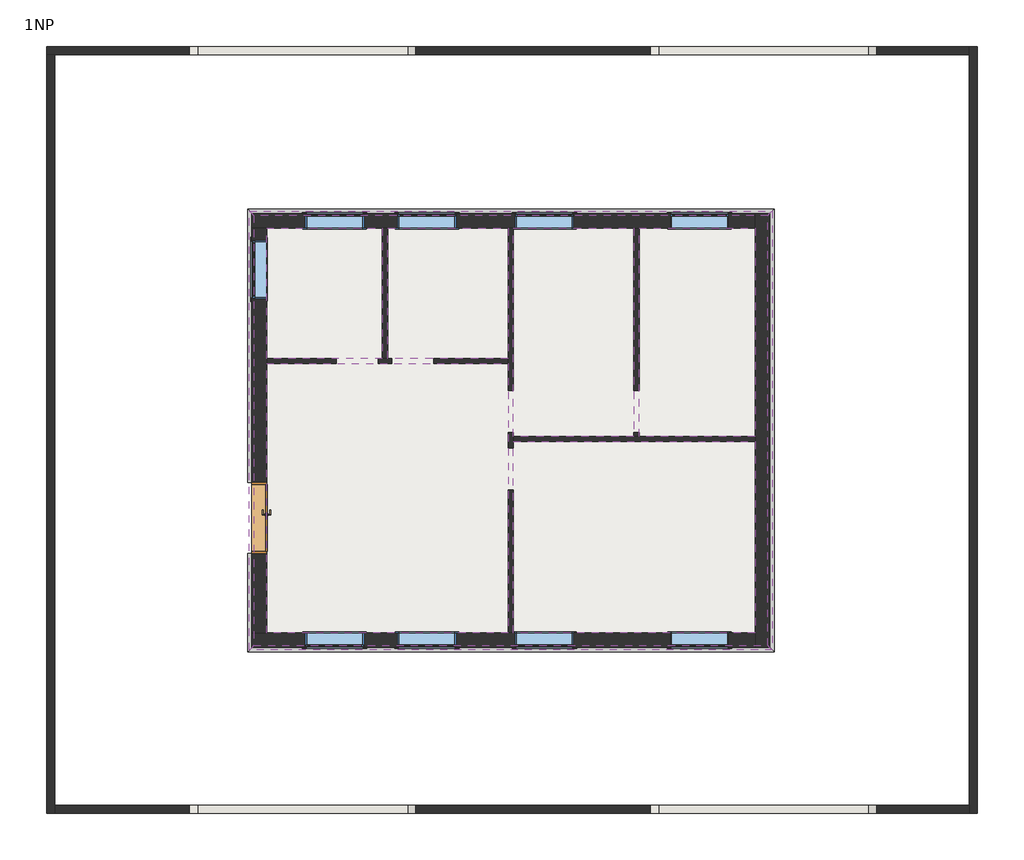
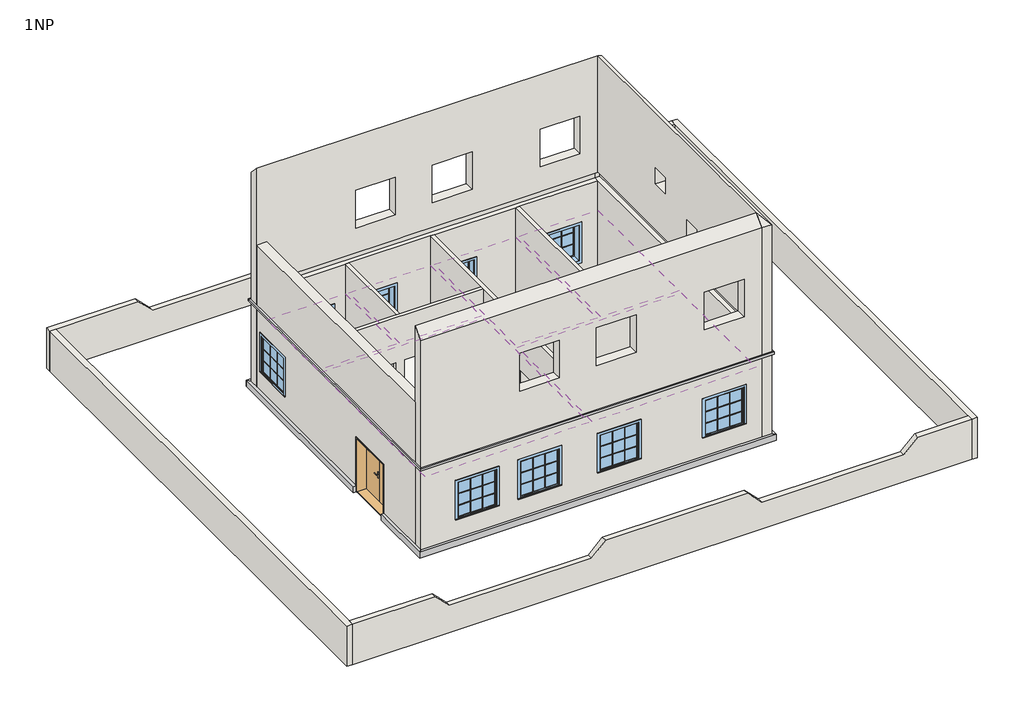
# One storey, incomplete: 13 walls, 9 windows, 8 proxies, 6 coverings, 1 door, 1 slab.
"""IFC4 building model written with IfcOpenShell, lengths in millimetres."""

from ifc_helpers import new_model, si_unit, frame, origin, origin_with_axes, place, context, project, spatial, polyline, outline, extrude, faceted_brep, transform, mapped, element, save
from components import door_1800_x_2000_69ae4523, m_casement_3x3_with_trim_1100_x_1400_df31fcd5

model = new_model("IFC4")

# Units and contexts
model_context = context("Model", 3, world=origin())
ifc_project = project(units=[si_unit("LENGTHUNIT", "METRE", prefix="MILLI")], contexts=[model_context])

# Site, building, storey
site = spatial("IfcSite", under=ifc_project)
building = spatial("IfcBuilding", under=site)
storey = spatial("IfcBuildingStorey", under=building, Name="1NP", Elevation=0.0)

# Proxies
placement = place(None, origin())
element("IfcBuildingElementProxy", 1, Name="Reveals", at=placement, inside=storey, context=model_context, shape_type="SweptSolid", body=[
    extrude(outline(polyline([(41581.5997597, 8705.2898989), (41684.0997597, 8602.7898989), (29219.0997597, 8602.7898989), (29321.5997597, 8705.2898989), (41581.5997597, 8705.2898989)])), frame((0.0, 0.0, 3200.0), z_axis=(0.0, 0.0, 1.0), x_axis=(1.0, 0.0, 0.0)), (0.0, 0.0, 1.0), 75.0),
])
element("IfcBuildingElementProxy", 2, Name="Wall Sweeps", at=placement, inside=storey, context=model_context, shape_type="Brep", body=[
    faceted_brep([(41729.0997597, 8557.7898989, 225.0), (41729.0997597, 8557.7898989, 0.0), (41626.5997597, 8660.2898989, 0.0), (41626.5997597, 8660.2898989, 225.0), (29174.0997597, 8557.7898989, 225.0), (29276.5997597, 8660.2898989, 225.0), (29276.5997597, 8660.2898989, 0.0), (29174.0997597, 8557.7898989, 0.0), (41276.5997597, 8660.2898989, 0.0)], [[[0, 1, 2, 3]], [[4, 5, 6, 7]], [[1, 0, 4, 7]], [[2, 1, 7, 6, 8]], [[3, 2, 8, 6, 5]], [[0, 3, 5, 4]]]),
])
element("IfcBuildingElementProxy", 3, Name="Reveals", at=placement, inside=storey, context=model_context, shape_type="SweptSolid", body=[
    extrude(outline(polyline([(29321.5997597, 18965.2898989), (29219.0997597, 19067.7898989), (41684.0997597, 19067.7898989), (41581.5997597, 18965.2898989), (29321.5997597, 18965.2898989)])), frame((0.0, 0.0, 3200.0), z_axis=(0.0, 0.0, 1.0), x_axis=(1.0, 0.0, 0.0)), (0.0, 0.0, 1.0), 75.0),
])
element("IfcBuildingElementProxy", 4, Name="Wall Sweeps", at=placement, inside=storey, context=model_context, shape_type="Brep", body=[
    faceted_brep([(29174.0997597, 19112.7898989, 225.0), (29174.0997597, 19112.7898989, 0.0), (29276.5997597, 19010.2898989, 0.0), (29276.5997597, 19010.2898989, 225.0), (41729.0997597, 19112.7898989, 225.0), (41626.5997597, 19010.2898989, 225.0), (41626.5997597, 19010.2898989, 0.0), (41729.0997597, 19112.7898989, 0.0), (41276.5997597, 19010.2898989, 0.0)], [[[0, 1, 2, 3]], [[4, 5, 6, 7]], [[1, 0, 4, 7]], [[2, 1, 7, 6, 8]], [[3, 2, 8, 6, 5]], [[0, 3, 5, 4]]]),
])
element("IfcBuildingElementProxy", 5, Name="Reveals", at=placement, inside=storey, context=model_context, shape_type="SweptSolid", body=[
    extrude(outline(polyline([(29321.5997597, 8705.2898989), (29219.0997597, 8602.7898989), (29219.0997597, 19067.7898989), (29321.5997597, 18965.2898989), (29321.5997597, 8705.2898989)])), frame((0.0, 0.0, 3200.0), z_axis=(0.0, 0.0, 1.0), x_axis=(1.0, 0.0, 0.0)), (0.0, 0.0, 1.0), 75.0),
])
element("IfcBuildingElementProxy", 6, Name="Wall Sweeps", at=placement, inside=storey, context=model_context, shape_type="Brep", body=[
    faceted_brep([(29174.0997597, 8557.7898989, 225.0), (29174.0997597, 8557.7898989, 0.0), (29276.5997597, 8660.2898989, 0.0), (29276.5997597, 8660.2898989, 225.0), (29174.0997597, 10900.2898989, 225.0), (29276.5997597, 10900.2898989, 225.0), (29276.5997597, 10900.2898989, 0.0), (29174.0997597, 10900.2898989, 0.0), (29276.5997597, 9010.2898989, 0.0)], [[[0, 1, 2, 3]], [[4, 5, 6, 7]], [[1, 0, 4, 7]], [[2, 1, 7, 6, 8]], [[3, 2, 8, 6, 5]], [[0, 3, 5, 4]]]),
    faceted_brep([(29174.0997597, 12600.2898989, 225.0), (29174.0997597, 12600.2898989, 0.0), (29276.5997597, 12600.2898989, 0.0), (29276.5997597, 12600.2898989, 225.0), (29174.0997597, 19112.7898989, 225.0), (29276.5997597, 19010.2898989, 225.0), (29276.5997597, 19010.2898989, 0.0), (29174.0997597, 19112.7898989, 0.0), (29276.5997597, 18660.2898989, 0.0)], [[[0, 1, 2, 3]], [[4, 5, 6, 7]], [[1, 0, 4, 7]], [[2, 1, 7, 6, 8]], [[3, 2, 8, 6, 5]], [[0, 3, 5, 4]]]),
])
element("IfcBuildingElementProxy", 7, Name="Reveals", at=placement, inside=storey, context=model_context, shape_type="SweptSolid", body=[
    extrude(outline(polyline([(41581.5997597, 18965.2898989), (41684.0997597, 19067.7898989), (41684.0997597, 8602.7898989), (41581.5997597, 8705.2898989), (41581.5997597, 18965.2898989)])), frame((0.0, 0.0, 3200.0), z_axis=(0.0, 0.0, 1.0), x_axis=(1.0, 0.0, 0.0)), (0.0, 0.0, 1.0), 75.0),
])
element("IfcBuildingElementProxy", 8, Name="Wall Sweeps", at=placement, inside=storey, context=model_context, shape_type="SweptSolid", body=[
    extrude(outline(polyline([(41626.5997597, 19010.2898989), (41729.0997597, 19112.7898989), (41729.0997597, 8557.7898989), (41626.5997597, 8660.2898989), (41626.5997597, 19010.2898989)])), origin_with_axes(), (0.0, 0.0, 1.0), 225.0),
])

# Coverings
element("IfcCovering", 9, ObjectType="600 x 1200mm Grid", at=placement, inside=storey, context=model_context, shape_type="SweptSolid", body=[
    extrude(outline(polyline([(29626.5997597, 18660.2898989), (32389.5997597, 18660.2898989), (32389.5997597, 15553.6571646), (29626.5997597, 15553.6571646), (29626.5997597, 18660.2898989)])), frame((0.0, 0.0, 2600.0), z_axis=(0.0, 0.0, 1.0), x_axis=(1.0, 0.0, 0.0)), (0.0, 0.0, 1.0), 52.0),
])
element("IfcCovering", 10, ObjectType="600 x 1200mm Grid", at=placement, inside=storey, context=model_context, shape_type="SweptSolid", body=[
    extrude(outline(polyline([(32513.5997597, 18660.2898989), (35389.5997597, 18660.2898989), (35389.5997597, 15553.6571646), (32513.5997597, 15553.6571646), (32513.5997597, 18660.2898989)])), frame((0.0, 0.0, 2600.0), z_axis=(0.0, 0.0, 1.0), x_axis=(1.0, 0.0, 0.0)), (0.0, 0.0, 1.0), 52.0),
])
element("IfcCovering", 11, ObjectType="600 x 1200mm Grid", at=placement, inside=storey, context=model_context, shape_type="SweptSolid", body=[
    extrude(outline(polyline([(35513.5997597, 13697.2898989), (35513.5997597, 18660.2898989), (38389.5997597, 18660.2898989), (38389.5997597, 13697.2898989), (35513.5997597, 13697.2898989)])), frame((0.0, 0.0, 2600.0), z_axis=(0.0, 0.0, 1.0), x_axis=(1.0, 0.0, 0.0)), (0.0, 0.0, 1.0), 52.0),
])
element("IfcCovering", 12, ObjectType="600 x 1200mm Grid", at=placement, inside=storey, context=model_context, shape_type="SweptSolid", body=[
    extrude(outline(polyline([(38513.5997597, 18660.2898989), (41276.5997597, 18660.2898989), (41276.5997597, 13697.2898989), (38513.5997597, 13697.2898989), (38513.5997597, 18660.2898989)])), frame((0.0, 0.0, 2600.0), z_axis=(0.0, 0.0, 1.0), x_axis=(1.0, 0.0, 0.0)), (0.0, 0.0, 1.0), 52.0),
])
element("IfcCovering", 13, ObjectType="600 x 1200mm Grid", at=placement, inside=storey, context=model_context, shape_type="SweptSolid", body=[
    extrude(outline(polyline([(41276.5997597, 9010.2898989), (35513.5997597, 9010.2898989), (35513.5997597, 13573.2898989), (41276.5997597, 13573.2898989), (41276.5997597, 9010.2898989)])), frame((0.0, 0.0, 2600.0), z_axis=(0.0, 0.0, 1.0), x_axis=(1.0, 0.0, 0.0)), (0.0, 0.0, 1.0), 52.0),
])
element("IfcCovering", 14, ObjectType="600 x 1200mm Grid", at=placement, inside=storey, context=model_context, shape_type="SweptSolid", body=[
    extrude(outline(polyline([(29626.5997597, 9010.2898989), (29626.5997597, 15429.6571646), (35389.5997597, 15429.6571646), (35389.5997597, 9010.2898989), (29626.5997597, 9010.2898989)])), frame((0.0, 0.0, 2600.0), z_axis=(0.0, 0.0, 1.0), x_axis=(1.0, 0.0, 0.0)), (0.0, 0.0, 1.0), 52.0),
])

# Door
door_1800_x_2000_shape = door_1800_x_2000_69ae4523(model_context)
element("IfcDoor", 15, ObjectType="Dvoukridle oboustrana zaruben : 1800 x 2000", at=placement, inside=storey, context=model_context, shape_type="MappedRepresentation", body=[
    mapped(door_1800_x_2000_shape, transform((29451.5997597, 11730.2898989, 0.0), x_axis=(0.0, -1.0, 0.0), y_axis=(1.0, 0.0, 0.0), z_axis=(0.0, 0.0, 1.0))),
])

# Slab
element("IfcSlab", 16, ObjectType="Generic 300mm", at=placement, inside=storey, context=model_context, shape_type="SweptSolid", body=[
    extrude(outline(polyline([(29613.5997597, 18673.2898989), (41289.5997597, 18673.2898989), (41289.5997597, 8997.2898989), (29613.5997597, 8997.2898989), (29613.5997597, 18673.2898989)])), frame((0.0, 0.0, -300.0), z_axis=(0.0, 0.0, 1.0), x_axis=(1.0, 0.0, 0.0)), (0.0, 0.0, 1.0), 300.0),
])

# Walls
element("IfcWall", 17, ObjectType="Exterior-Brick on Mtl. Stud with Base", at=placement, inside=storey, context=model_context, shape_type="Brep", body=[
    faceted_brep([(29276.5997597, 18660.2898989, 0.0), (29626.5997597, 18660.2898989, 0.0), (32389.5997597, 18660.2898989, 0.0), (32513.5997597, 18660.2898989, 0.0), (35389.5997597, 18660.2898989, 0.0), (35513.5997597, 18660.2898989, 0.0), (38389.5997597, 18660.2898989, 0.0), (38513.5997597, 18660.2898989, 0.0), (41276.5997597, 18660.2898989, 0.0), (41276.5997597, 18660.2898989, 3700.0), (38513.5997597, 18660.2898989, 3700.0), (38389.5997597, 18660.2898989, 3700.0), (35513.5997597, 18660.2898989, 3700.0), (35389.5997597, 18660.2898989, 3700.0), (32513.5997597, 18660.2898989, 3700.0), (32389.5997597, 18660.2898989, 3700.0), (29626.5997597, 18660.2898989, 3700.0), (29461.5997597, 18660.2898989, 3700.0), (29461.5997597, 18660.2898989, 4000.0), (29626.5997597, 18660.2898989, 4000.0), (34307.355701, 18660.2898989, 4000.0), (34431.355701, 18660.2898989, 4000.0), (37102.5997597, 18660.2898989, 4000.0), (37226.5997597, 18660.2898989, 4000.0), (41276.5997597, 18660.2898989, 4000.0), (41276.5997597, 18660.2898989, 8350.0), (29276.5997597, 18660.2898989, 8350.0), (29276.5997597, 18660.2898989, 5500.0), (29276.5997597, 18660.2898989, 3275.0), (29321.5997597, 18660.2898989, 3275.0), (29321.5997597, 18660.2898989, 3200.0), (29276.5997597, 18660.2898989, 3200.0), (29276.5997597, 18660.2898989, 225.0), (31951.5997597, 18660.2898989, 2315.0), (31951.5997597, 18660.2898989, 915.0), (30551.5997597, 18660.2898989, 915.0), (30551.5997597, 18660.2898989, 2315.0), (34151.5997597, 18660.2898989, 2315.0), (34151.5997597, 18660.2898989, 915.0), (32751.5997597, 18660.2898989, 915.0), (32751.5997597, 18660.2898989, 2315.0), (36951.5997597, 18660.2898989, 2315.0), (36951.5997597, 18660.2898989, 915.0), (35551.5997597, 18660.2898989, 915.0), (35551.5997597, 18660.2898989, 2315.0), (40651.5997597, 18660.2898989, 2315.0), (40651.5997597, 18660.2898989, 915.0), (39251.5997597, 18660.2898989, 915.0), (39251.5997597, 18660.2898989, 2315.0), (34151.5997597, 18660.2898989, 6315.0), (34151.5997597, 18660.2898989, 4915.0), (32751.5997597, 18660.2898989, 4915.0), (32751.5997597, 18660.2898989, 6315.0), (36851.5997597, 18660.2898989, 6315.0), (36851.5997597, 18660.2898989, 4915.0), (35451.5997597, 18660.2898989, 4915.0), (35451.5997597, 18660.2898989, 6315.0), (40651.5997597, 18660.2898989, 6315.0), (40651.5997597, 18660.2898989, 4915.0), (39251.5997597, 18660.2898989, 4915.0), (39251.5997597, 18660.2898989, 6315.0), (41276.5997597, 19010.2898989, 0.0), (29276.5997597, 19010.2898989, 0.0), (29276.5997597, 19010.2898989, 225.0), (29276.5997597, 19010.2898989, 3200.0), (41276.5997597, 19010.2898989, 3200.0), (41276.5997597, 19010.2898989, 225.0), (31951.5997597, 19010.2898989, 915.0), (31951.5997597, 19010.2898989, 2315.0), (30551.5997597, 19010.2898989, 2315.0), (30551.5997597, 19010.2898989, 915.0), (34151.5997597, 19010.2898989, 915.0), (34151.5997597, 19010.2898989, 2315.0), (32751.5997597, 19010.2898989, 2315.0), (32751.5997597, 19010.2898989, 915.0), (36951.5997597, 19010.2898989, 915.0), (36951.5997597, 19010.2898989, 2315.0), (35551.5997597, 19010.2898989, 2315.0), (35551.5997597, 19010.2898989, 915.0), (40651.5997597, 19010.2898989, 915.0), (40651.5997597, 19010.2898989, 2315.0), (39251.5997597, 19010.2898989, 2315.0), (39251.5997597, 19010.2898989, 915.0), (29276.5997597, 19010.2898989, 8000.0), (41276.5997597, 19010.2898989, 8000.0), (41276.5997597, 19010.2898989, 3275.0), (29276.5997597, 19010.2898989, 3275.0), (34151.5997597, 19010.2898989, 4915.0), (34151.5997597, 19010.2898989, 6315.0), (32751.5997597, 19010.2898989, 6315.0), (32751.5997597, 19010.2898989, 4915.0), (36851.5997597, 19010.2898989, 4915.0), (36851.5997597, 19010.2898989, 6315.0), (35451.5997597, 19010.2898989, 6315.0), (35451.5997597, 19010.2898989, 4915.0), (40651.5997597, 19010.2898989, 4915.0), (40651.5997597, 19010.2898989, 6315.0), (39251.5997597, 19010.2898989, 6315.0), (39251.5997597, 19010.2898989, 4915.0), (41276.5997597, 18965.2898989, 3200.0), (41276.5997597, 18965.2898989, 3275.0), (41276.5997597, 18825.2898989, 4000.0), (41276.5997597, 18825.2898989, 3700.0), (29461.5997597, 18825.2898989, 3700.0), (29461.5997597, 18825.2898989, 4000.0), (29321.5997597, 18965.2898989, 3275.0), (29321.5997597, 18965.2898989, 3200.0)], [[[0, 1, 2, 3, 4, 5, 6, 7, 8, 9, 10, 11, 12, 13, 14, 15, 16, 17, 18, 19, 20, 21, 22, 23, 24, 25, 26, 27, 28, 29, 30, 31, 32], [33, 34, 35, 36], [37, 38, 39, 40], [41, 42, 43, 44], [45, 46, 47, 48], [49, 50, 51, 52], [53, 54, 55, 56], [57, 58, 59, 60]], [[61, 62, 63, 64, 65, 66], [67, 68, 69, 70], [71, 72, 73, 74], [75, 76, 77, 78], [79, 80, 81, 82]], [[83, 84, 85, 86], [87, 88, 89, 90], [91, 92, 93, 94], [95, 96, 97, 98]], [[8, 7, 6, 5, 4, 3, 2, 1, 0, 62, 61]], [[62, 0, 32, 31, 64, 63]], [[26, 83, 86, 28, 27]], [[8, 61, 66, 65, 99, 100, 85, 84, 25, 24, 101, 102, 9]], [[26, 25, 84, 83]], [[34, 33, 68, 67]], [[35, 34, 67, 70]], [[36, 35, 70, 69]], [[33, 36, 69, 68]], [[38, 37, 72, 71]], [[39, 38, 71, 74]], [[40, 39, 74, 73]], [[37, 40, 73, 72]], [[42, 41, 76, 75]], [[43, 42, 75, 78]], [[44, 43, 78, 77]], [[41, 44, 77, 76]], [[46, 45, 80, 79]], [[47, 46, 79, 82]], [[48, 47, 82, 81]], [[45, 48, 81, 80]], [[50, 49, 88, 87]], [[51, 50, 87, 90]], [[52, 51, 90, 89]], [[49, 52, 89, 88]], [[54, 53, 92, 91]], [[55, 54, 91, 94]], [[56, 55, 94, 93]], [[53, 56, 93, 92]], [[58, 57, 96, 95]], [[59, 58, 95, 98]], [[60, 59, 98, 97]], [[57, 60, 97, 96]], [[103, 17, 16, 15, 14, 13, 12, 11, 10, 9, 102]], [[104, 101, 24, 23, 22, 21, 20, 19, 18]], [[104, 103, 102, 101]], [[103, 104, 18, 17]], [[100, 105, 29, 28, 86, 85]], [[30, 106, 99, 65, 64, 31]], [[105, 106, 30, 29]], [[106, 105, 100, 99]]]),
])
element("IfcWall", 18, ObjectType="Exterior-Brick on Mtl. Stud with Base", at=placement, inside=storey, context=model_context, shape_type="Brep", body=[
    faceted_brep([(29626.5997597, 18660.2898989, 5500.0), (29626.5997597, 9010.2898989, 5500.0), (29626.5997597, 9010.2898989, 4000.0), (29626.5997597, 18660.2898989, 4000.0), (29626.5997597, 10900.2898989, 0.0), (29626.5997597, 10900.2898989, 2050.0), (29626.5997597, 12600.2898989, 2050.0), (29626.5997597, 12600.2898989, 0.0), (29626.5997597, 15429.6571646, 0.0), (29626.5997597, 15553.6571646, 0.0), (29626.5997597, 18660.2898989, 0.0), (29626.5997597, 18660.2898989, 3700.0), (29626.5997597, 15553.6571646, 3700.0), (29626.5997597, 15429.6571646, 3700.0), (29626.5997597, 9010.2898989, 3700.0), (29626.5997597, 9010.2898989, 0.0), (29626.5997597, 18377.7898989, 2315.0), (29626.5997597, 18377.7898989, 915.0), (29626.5997597, 16977.7898989, 915.0), (29626.5997597, 16977.7898989, 2315.0), (29276.5997597, 9010.2898989, 5500.0), (29276.5997597, 18660.2898989, 5500.0), (29276.5997597, 18660.2898989, 3275.0), (29276.5997597, 9010.2898989, 3275.0), (29276.5997597, 12600.2898989, 2050.0), (29276.5997597, 10900.2898989, 2050.0), (29276.5997597, 10900.2898989, 225.0), (29276.5997597, 10900.2898989, 0.0), (29276.5997597, 9010.2898989, 0.0), (29276.5997597, 9010.2898989, 225.0), (29276.5997597, 9010.2898989, 3200.0), (29276.5997597, 18660.2898989, 3200.0), (29276.5997597, 18660.2898989, 225.0), (29276.5997597, 18660.2898989, 0.0), (29276.5997597, 12600.2898989, 0.0), (29276.5997597, 12600.2898989, 225.0), (29276.5997597, 18377.7898989, 915.0), (29276.5997597, 18377.7898989, 2315.0), (29276.5997597, 16977.7898989, 2315.0), (29276.5997597, 16977.7898989, 915.0), (29321.5997597, 18660.2898989, 3200.0), (29321.5997597, 18660.2898989, 3275.0), (29461.5997597, 18660.2898989, 4000.0), (29461.5997597, 18660.2898989, 3700.0), (29321.5997597, 9010.2898989, 3275.0), (29321.5997597, 9010.2898989, 3200.0), (29461.5997597, 9010.2898989, 3700.0), (29461.5997597, 9010.2898989, 4000.0)], [[[0, 1, 2, 3]], [[4, 5, 6, 7, 8, 9, 10, 11, 12, 13, 14, 15], [16, 17, 18, 19]], [[20, 21, 22, 23]], [[24, 25, 26, 27, 28, 29, 30, 31, 32, 33, 34, 35], [36, 37, 38, 39]], [[33, 10, 9, 8, 7, 34]], [[15, 28, 27, 4]], [[1, 0, 21, 20]], [[10, 33, 32, 31, 40, 41, 22, 21, 0, 3, 42, 43, 11]], [[1, 20, 23, 44, 45, 30, 29, 28, 15, 14, 46, 47, 2]], [[5, 4, 27, 26, 25]], [[6, 5, 25, 24]], [[7, 6, 24, 35, 34]], [[17, 16, 37, 36]], [[18, 17, 36, 39]], [[19, 18, 39, 38]], [[16, 19, 38, 37]], [[43, 46, 14, 13, 12, 11]], [[47, 42, 3, 2]], [[46, 43, 42, 47]], [[41, 44, 23, 22]], [[45, 40, 31, 30]], [[44, 41, 40, 45]]]),
])
element("IfcWall", 19, ObjectType="Exterior-Brick on Mtl. Stud with Base", at=placement, inside=storey, context=model_context, shape_type="Brep", body=[
    faceted_brep([(41276.5997597, 9010.2898989, 0.0), (35513.5997597, 9010.2898989, 0.0), (35389.5997597, 9010.2898989, 0.0), (29626.5997597, 9010.2898989, 0.0), (29276.5997597, 9010.2898989, 0.0), (29276.5997597, 9010.2898989, 225.0), (29276.5997597, 9010.2898989, 3200.0), (29321.5997597, 9010.2898989, 3200.0), (29321.5997597, 9010.2898989, 3275.0), (29276.5997597, 9010.2898989, 3275.0), (29276.5997597, 9010.2898989, 5500.0), (29276.5997597, 9010.2898989, 8350.0), (41276.5997597, 9010.2898989, 8350.0), (41276.5997597, 9010.2898989, 4000.0), (37226.5997597, 9010.2898989, 4000.0), (37102.5997597, 9010.2898989, 4000.0), (34431.355701, 9010.2898989, 4000.0), (34307.355701, 9010.2898989, 4000.0), (29626.5997597, 9010.2898989, 4000.0), (29461.5997597, 9010.2898989, 4000.0), (29461.5997597, 9010.2898989, 3700.0), (29626.5997597, 9010.2898989, 3700.0), (35389.5997597, 9010.2898989, 3700.0), (35513.5997597, 9010.2898989, 3700.0), (41276.5997597, 9010.2898989, 3700.0), (39251.5997597, 9010.2898989, 2315.0), (39251.5997597, 9010.2898989, 915.0), (40651.5997597, 9010.2898989, 915.0), (40651.5997597, 9010.2898989, 2315.0), (35551.5997597, 9010.2898989, 2315.0), (35551.5997597, 9010.2898989, 915.0), (36951.5997597, 9010.2898989, 915.0), (36951.5997597, 9010.2898989, 2315.0), (32751.5997597, 9010.2898989, 2315.0), (32751.5997597, 9010.2898989, 915.0), (34151.5997597, 9010.2898989, 915.0), (34151.5997597, 9010.2898989, 2315.0), (30551.5997597, 9010.2898989, 2315.0), (30551.5997597, 9010.2898989, 915.0), (31951.5997597, 9010.2898989, 915.0), (31951.5997597, 9010.2898989, 2315.0), (39251.5997597, 9010.2898989, 6315.0), (39251.5997597, 9010.2898989, 4915.0), (40651.5997597, 9010.2898989, 4915.0), (40651.5997597, 9010.2898989, 6315.0), (35451.5997597, 9010.2898989, 6315.0), (35451.5997597, 9010.2898989, 4915.0), (36851.5997597, 9010.2898989, 4915.0), (36851.5997597, 9010.2898989, 6315.0), (32751.5997597, 9010.2898989, 6315.0), (32751.5997597, 9010.2898989, 4915.0), (34151.5997597, 9010.2898989, 4915.0), (34151.5997597, 9010.2898989, 6315.0), (29276.5997597, 8660.2898989, 0.0), (41276.5997597, 8660.2898989, 0.0), (41276.5997597, 8660.2898989, 225.0), (41276.5997597, 8660.2898989, 3200.0), (29276.5997597, 8660.2898989, 3200.0), (29276.5997597, 8660.2898989, 225.0), (39251.5997597, 8660.2898989, 915.0), (39251.5997597, 8660.2898989, 2315.0), (40651.5997597, 8660.2898989, 2315.0), (40651.5997597, 8660.2898989, 915.0), (35551.5997597, 8660.2898989, 915.0), (35551.5997597, 8660.2898989, 2315.0), (36951.5997597, 8660.2898989, 2315.0), (36951.5997597, 8660.2898989, 915.0), (32751.5997597, 8660.2898989, 915.0), (32751.5997597, 8660.2898989, 2315.0), (34151.5997597, 8660.2898989, 2315.0), (34151.5997597, 8660.2898989, 915.0), (30551.5997597, 8660.2898989, 915.0), (30551.5997597, 8660.2898989, 2315.0), (31951.5997597, 8660.2898989, 2315.0), (31951.5997597, 8660.2898989, 915.0), (41276.5997597, 8660.2898989, 8000.0), (29276.5997597, 8660.2898989, 8000.0), (29276.5997597, 8660.2898989, 3275.0), (41276.5997597, 8660.2898989, 3275.0), (39251.5997597, 8660.2898989, 4915.0), (39251.5997597, 8660.2898989, 6315.0), (40651.5997597, 8660.2898989, 6315.0), (40651.5997597, 8660.2898989, 4915.0), (35451.5997597, 8660.2898989, 4915.0), (35451.5997597, 8660.2898989, 6315.0), (36851.5997597, 8660.2898989, 6315.0), (36851.5997597, 8660.2898989, 4915.0), (32751.5997597, 8660.2898989, 4915.0), (32751.5997597, 8660.2898989, 6315.0), (34151.5997597, 8660.2898989, 6315.0), (34151.5997597, 8660.2898989, 4915.0), (41276.5997597, 8845.2898989, 3700.0), (41276.5997597, 8845.2898989, 4000.0), (41276.5997597, 8705.2898989, 3275.0), (41276.5997597, 8705.2898989, 3200.0), (29461.5997597, 8845.2898989, 3700.0), (29461.5997597, 8845.2898989, 4000.0), (29321.5997597, 8705.2898989, 3275.0), (29321.5997597, 8705.2898989, 3200.0)], [[[0, 1, 2, 3, 4, 5, 6, 7, 8, 9, 10, 11, 12, 13, 14, 15, 16, 17, 18, 19, 20, 21, 22, 23, 24], [25, 26, 27, 28], [29, 30, 31, 32], [33, 34, 35, 36], [37, 38, 39, 40], [41, 42, 43, 44], [45, 46, 47, 48], [49, 50, 51, 52]], [[53, 54, 55, 56, 57, 58], [59, 60, 61, 62], [63, 64, 65, 66], [67, 68, 69, 70], [71, 72, 73, 74]], [[75, 76, 77, 78], [79, 80, 81, 82], [83, 84, 85, 86], [87, 88, 89, 90]], [[4, 3, 2, 1, 0, 54, 53]], [[4, 53, 58, 57, 6, 5]], [[76, 11, 10, 9, 77]], [[54, 0, 24, 91, 92, 13, 12, 75, 78, 93, 94, 56, 55]], [[12, 11, 76, 75]], [[26, 25, 60, 59]], [[27, 26, 59, 62]], [[28, 27, 62, 61]], [[25, 28, 61, 60]], [[30, 29, 64, 63]], [[31, 30, 63, 66]], [[32, 31, 66, 65]], [[29, 32, 65, 64]], [[34, 33, 68, 67]], [[35, 34, 67, 70]], [[36, 35, 70, 69]], [[33, 36, 69, 68]], [[38, 37, 72, 71]], [[39, 38, 71, 74]], [[40, 39, 74, 73]], [[37, 40, 73, 72]], [[42, 41, 80, 79]], [[43, 42, 79, 82]], [[44, 43, 82, 81]], [[41, 44, 81, 80]], [[46, 45, 84, 83]], [[47, 46, 83, 86]], [[48, 47, 86, 85]], [[45, 48, 85, 84]], [[50, 49, 88, 87]], [[51, 50, 87, 90]], [[52, 51, 90, 89]], [[49, 52, 89, 88]], [[20, 95, 91, 24, 23, 22, 21]], [[92, 96, 19, 18, 17, 16, 15, 14, 13]], [[95, 96, 92, 91]], [[96, 95, 20, 19]], [[8, 97, 93, 78, 77, 9]], [[94, 98, 7, 6, 57, 56]], [[97, 98, 94, 93]], [[98, 97, 8, 7]]]),
])
element("IfcWall", 20, ObjectType="Exterior-Brick on Mtl. Stud with Base", at=placement, inside=storey, context=model_context, shape_type="Brep", body=[
    faceted_brep([(41276.5997597, 19010.2898989, 0.0), (41276.5997597, 18660.2898989, 0.0), (41276.5997597, 13697.2898989, 0.0), (41276.5997597, 13573.2898989, 0.0), (41276.5997597, 9010.2898989, 0.0), (41276.5997597, 8660.2898989, 0.0), (41276.5997597, 8660.2898989, 225.0), (41276.5997597, 8660.2898989, 3200.0), (41276.5997597, 8705.2898989, 3200.0), (41276.5997597, 8705.2898989, 3275.0), (41276.5997597, 8660.2898989, 3275.0), (41276.5997597, 8660.2898989, 8000.0), (41276.5997597, 9010.2898989, 8350.0), (41276.5997597, 18660.2898989, 8350.0), (41276.5997597, 19010.2898989, 8000.0), (41276.5997597, 19010.2898989, 3275.0), (41276.5997597, 18965.2898989, 3275.0), (41276.5997597, 18965.2898989, 3200.0), (41276.5997597, 19010.2898989, 3200.0), (41276.5997597, 19010.2898989, 225.0), (41276.5997597, 14530.2898989, 6315.0), (41276.5997597, 14530.2898989, 5705.0), (41276.5997597, 15140.2898989, 5705.0), (41276.5997597, 15140.2898989, 6315.0), (41276.5997597, 12630.2898989, 5525.0), (41276.5997597, 12630.2898989, 4915.0), (41276.5997597, 13240.2898989, 4915.0), (41276.5997597, 13240.2898989, 5525.0), (41276.5997597, 8845.2898989, 3700.0), (41276.5997597, 9010.2898989, 3700.0), (41276.5997597, 13573.2898989, 3700.0), (41276.5997597, 13697.2898989, 3700.0), (41276.5997597, 18660.2898989, 3700.0), (41276.5997597, 18825.2898989, 3700.0), (41276.5997597, 18825.2898989, 4000.0), (41276.5997597, 18660.2898989, 4000.0), (41276.5997597, 16097.2898989, 4000.0), (41276.5997597, 15973.2898989, 4000.0), (41276.5997597, 13897.2898989, 4000.0), (41276.5997597, 13773.2898989, 4000.0), (41276.5997597, 11697.2898989, 4000.0), (41276.5997597, 11573.2898989, 4000.0), (41276.5997597, 9010.2898989, 4000.0), (41276.5997597, 8845.2898989, 4000.0), (41626.5997597, 8660.2898989, 0.0), (41626.5997597, 19010.2898989, 0.0), (41626.5997597, 19010.2898989, 225.0), (41626.5997597, 19010.2898989, 3200.0), (41626.5997597, 8660.2898989, 3200.0), (41626.5997597, 8660.2898989, 225.0), (41626.5997597, 19010.2898989, 8000.0), (41626.5997597, 8660.2898989, 8000.0), (41626.5997597, 8660.2898989, 3275.0), (41626.5997597, 19010.2898989, 3275.0), (41626.5997597, 14530.2898989, 5705.0), (41626.5997597, 14530.2898989, 6315.0), (41626.5997597, 15140.2898989, 6315.0), (41626.5997597, 15140.2898989, 5705.0), (41626.5997597, 12630.2898989, 4915.0), (41626.5997597, 12630.2898989, 5525.0), (41626.5997597, 13240.2898989, 5525.0), (41626.5997597, 13240.2898989, 4915.0), (41441.5997597, 8845.2898989, 3700.0), (41441.5997597, 18825.2898989, 3700.0), (41441.5997597, 18825.2898989, 4000.0), (41441.5997597, 8845.2898989, 4000.0), (41581.5997597, 8705.2898989, 3275.0), (41581.5997597, 18965.2898989, 3275.0), (41581.5997597, 18965.2898989, 3200.0), (41581.5997597, 8705.2898989, 3200.0)], [[[0, 1, 2, 3, 4, 5, 6, 7, 8, 9, 10, 11, 12, 13, 14, 15, 16, 17, 18, 19], [20, 21, 22, 23], [24, 25, 26, 27], [28, 29, 30, 31, 32, 33, 34, 35, 36, 37, 38, 39, 40, 41, 42, 43]], [[44, 45, 46, 47, 48, 49]], [[50, 51, 52, 53], [54, 55, 56, 57], [58, 59, 60, 61]], [[5, 4, 3, 2, 1, 0, 45, 44]], [[14, 50, 53, 15]], [[45, 0, 19, 18, 47, 46]], [[5, 44, 49, 48, 7, 6]], [[51, 11, 10, 52]], [[50, 14, 13]], [[51, 50, 13, 12]], [[11, 51, 12]], [[21, 20, 55, 54]], [[22, 21, 54, 57]], [[23, 22, 57, 56]], [[20, 23, 56, 55]], [[25, 24, 59, 58]], [[26, 25, 58, 61]], [[27, 26, 61, 60]], [[24, 27, 60, 59]], [[62, 63, 33, 32, 31, 30, 29, 28]], [[64, 65, 43, 42, 41, 40, 39, 38, 37, 36, 35, 34]], [[63, 64, 34, 33]], [[63, 62, 65, 64]], [[65, 62, 28, 43]], [[66, 67, 16, 15, 53, 52, 10, 9]], [[68, 69, 8, 7, 48, 47, 18, 17]], [[67, 68, 17, 16]], [[67, 66, 69, 68]], [[69, 66, 9, 8]]]),
])
element("IfcWall", 21, ObjectType="Generic - 200mm", at=placement, inside=storey, context=model_context, shape_type="Brep", body=[
    faceted_brep([(24380.2365142, 22798.2848616, 0.0), (24580.2365142, 22798.2848616, 0.0), (46380.2365142, 22798.2848616, 0.0), (46380.2365142, 22798.2848616, 1500.0), (44480.2365142, 22798.2848616, 1500.0), (43985.2617674, 22798.2848616, 1005.0252532), (38985.2617674, 22798.2848616, 1005.0252532), (38490.2870206, 22798.2848616, 1500.0), (33490.2870206, 22798.2848616, 1500.0), (32995.3122737, 22798.2848616, 1005.0252532), (27995.3122737, 22798.2848616, 1005.0252532), (27500.3375269, 22798.2848616, 1500.0), (24580.2365142, 22798.2848616, 1500.0), (24380.2365142, 22798.2848616, 1500.0), (24380.2365142, 22998.2848616, 0.0), (24380.2365142, 22998.2848616, 1500.0), (27500.3375269, 22998.2848616, 1500.0), (27995.3122737, 22998.2848616, 1005.0252532), (32995.3122737, 22998.2848616, 1005.0252532), (33490.2870206, 22998.2848616, 1500.0), (38490.2870206, 22998.2848616, 1500.0), (38985.2617674, 22998.2848616, 1005.0252532), (43985.2617674, 22998.2848616, 1005.0252532), (44480.2365142, 22998.2848616, 1500.0), (46380.2365142, 22998.2848616, 1500.0), (46380.2365142, 22998.2848616, 0.0)], [[[0, 1, 2, 3, 4, 5, 6, 7, 8, 9, 10, 11, 12, 13]], [[14, 15, 16, 17, 18, 19, 20, 21, 22, 23, 24, 25]], [[2, 1, 0, 14, 25]], [[4, 3, 24, 23]], [[5, 4, 23, 22]], [[6, 5, 22, 21]], [[7, 6, 21, 20]], [[8, 7, 20, 19]], [[9, 8, 19, 18]], [[10, 9, 18, 17]], [[11, 10, 17, 16]], [[13, 12, 11, 16, 15]], [[0, 13, 15, 14]], [[3, 2, 25, 24]]]),
])
element("IfcWall", 22, ObjectType="Generic - 200mm", at=placement, inside=storey, context=model_context, shape_type="Brep", body=[
    faceted_brep([(24580.2365142, 4698.2848616, 0.0), (24580.2365142, 4898.2848616, 0.0), (24580.2365142, 22798.2848616, 0.0), (24580.2365142, 22798.2848616, 1500.0), (24580.2365142, 4898.2848616, 1500.0), (24580.2365142, 4698.2848616, 1500.0), (24380.2365142, 4698.2848616, 0.0), (24380.2365142, 4698.2848616, 1500.0), (24380.2365142, 22798.2848616, 1500.0), (24380.2365142, 22798.2848616, 0.0)], [[[0, 1, 2, 3, 4, 5]], [[6, 7, 8, 9]], [[2, 1, 0, 6, 9]], [[5, 4, 3, 8, 7]], [[0, 5, 7, 6]], [[3, 2, 9, 8]]]),
])
element("IfcWall", 23, ObjectType="Generic - 200mm", at=placement, inside=storey, context=model_context, shape_type="Brep", body=[
    faceted_brep([(46380.2365142, 22998.2848616, 0.0), (46380.2365142, 22798.2848616, 0.0), (46380.2365142, 4898.2848616, 0.0), (46380.2365142, 4698.2848616, 0.0), (46380.2365142, 4698.2848616, 1500.0), (46380.2365142, 4898.2848616, 1500.0), (46380.2365142, 22798.2848616, 1500.0), (46380.2365142, 22998.2848616, 1500.0), (46580.2365142, 22998.2848616, 0.0), (46580.2365142, 22998.2848616, 1500.0), (46580.2365142, 4698.2848616, 1500.0), (46580.2365142, 4698.2848616, 0.0)], [[[0, 1, 2, 3, 4, 5, 6, 7]], [[8, 9, 10, 11]], [[3, 2, 1, 0, 8, 11]], [[7, 6, 5, 4, 10, 9]], [[0, 7, 9, 8]], [[4, 3, 11, 10]]]),
])
element("IfcWall", 24, ObjectType="Generic - 200mm", at=placement, inside=storey, context=model_context, shape_type="SweptSolid", body=[
    extrude(outline(polyline([(0.0, 24580.2365142), (0.0, 46380.2365142), (1500.0, 46380.2365142), (1500.0, 44480.2365142), (1005.0252532, 43985.2617674), (1005.0252532, 38985.2617674), (1500.0, 38490.2870206), (1500.0, 33490.2870206), (1005.0252532, 32995.3122737), (1005.0252532, 27995.3122737), (1500.0, 27500.3375269), (1500.0, 24580.2365142), (0.0, 24580.2365142)])), frame((0.0, 4698.2848616, 0.0), z_axis=(0.0, 1.0, 0.0), x_axis=(0.0, 0.0, 1.0)), (0.0, 0.0, 1.0), 200.0),
])
element("IfcWall", 25, ObjectType="Interior - Blockwork 100", at=placement, inside=storey, context=model_context, shape_type="Brep", body=[
    faceted_brep([(35389.5997597, 18660.2898989, 0.0), (35389.5997597, 15553.6571646, 0.0), (35389.5997597, 15429.6571646, 0.0), (35389.5997597, 14792.7898989, 0.0), (35389.5997597, 14792.7898989, 2020.0), (35389.5997597, 13792.7898989, 2020.0), (35389.5997597, 13792.7898989, 0.0), (35389.5997597, 13415.7898989, 0.0), (35389.5997597, 13415.7898989, 2020.0), (35389.5997597, 12415.7898989, 2020.0), (35389.5997597, 12415.7898989, 0.0), (35389.5997597, 9010.2898989, 0.0), (35389.5997597, 9010.2898989, 3700.0), (35389.5997597, 15429.6571646, 3700.0), (35389.5997597, 15553.6571646, 3700.0), (35389.5997597, 18660.2898989, 3700.0), (35513.5997597, 14792.7898989, 2020.0), (35513.5997597, 14792.7898989, 0.0), (35513.5997597, 18660.2898989, 0.0), (35513.5997597, 18660.2898989, 3700.0), (35513.5997597, 13697.2898989, 3700.0), (35513.5997597, 13573.2898989, 3700.0), (35513.5997597, 9010.2898989, 3700.0), (35513.5997597, 9010.2898989, 0.0), (35513.5997597, 12415.7898989, 0.0), (35513.5997597, 12415.7898989, 2020.0), (35513.5997597, 13415.7898989, 2020.0), (35513.5997597, 13415.7898989, 0.0), (35513.5997597, 13573.2898989, 0.0), (35513.5997597, 13697.2898989, 0.0), (35513.5997597, 13792.7898989, 0.0), (35513.5997597, 13792.7898989, 2020.0)], [[[0, 1, 2, 3, 4, 5, 6, 7, 8, 9, 10, 11, 12, 13, 14, 15]], [[16, 17, 18, 19, 20, 21, 22, 23, 24, 25, 26, 27, 28, 29, 30, 31]], [[11, 10, 24, 23]], [[18, 17, 3, 2, 1, 0]], [[30, 29, 28, 27, 7, 6]], [[0, 15, 19, 18]], [[12, 11, 23, 22]], [[15, 14, 13, 12, 22, 21, 20, 19]], [[25, 24, 10, 9]], [[26, 25, 9, 8]], [[27, 26, 8, 7]], [[4, 3, 17, 16]], [[5, 4, 16, 31]], [[6, 5, 31, 30]]]),
])
element("IfcWall", 26, ObjectType="Interior - Blockwork 100", at=placement, inside=storey, context=model_context, shape_type="Brep", body=[
    faceted_brep([(41276.5997597, 13697.2898989, 0.0), (38513.5997597, 13697.2898989, 0.0), (38389.5997597, 13697.2898989, 0.0), (35513.5997597, 13697.2898989, 0.0), (35513.5997597, 13697.2898989, 3700.0), (38389.5997597, 13697.2898989, 3700.0), (38513.5997597, 13697.2898989, 3700.0), (41276.5997597, 13697.2898989, 3700.0), (41276.5997597, 13573.2898989, 0.0), (41276.5997597, 13573.2898989, 3700.0), (35513.5997597, 13573.2898989, 3700.0), (35513.5997597, 13573.2898989, 0.0)], [[[0, 1, 2, 3, 4, 5, 6, 7]], [[8, 9, 10, 11]], [[3, 2, 1, 0, 8, 11]], [[0, 7, 9, 8]], [[4, 3, 11, 10]], [[7, 6, 5, 4, 10, 9]]]),
])
element("IfcWall", 27, ObjectType="Interior - Blockwork 100", at=placement, inside=storey, context=model_context, shape_type="SweptSolid", body=[
    extrude(outline(polyline([(18660.2898989, 0.0), (14792.7898989, 0.0), (14792.7898989, 2020.0), (13792.7898989, 2020.0), (13792.7898989, 0.0), (13697.2898989, 0.0), (13697.2898989, 3700.0), (18660.2898989, 3700.0), (18660.2898989, 0.0)])), frame((38389.5997597, 0.0, 0.0), z_axis=(1.0, 0.0, 0.0), x_axis=(0.0, 1.0, 0.0)), (0.0, 0.0, 1.0), 124.0),
])
element("IfcWall", 28, ObjectType="Interior - Blockwork 100", at=placement, inside=storey, context=model_context, shape_type="Brep", body=[
    faceted_brep([(31294.0997597, 15553.6571646, 2020.0), (31294.0997597, 15553.6571646, 0.0), (29626.5997597, 15553.6571646, 0.0), (29626.5997597, 15553.6571646, 3700.0), (32389.5997597, 15553.6571646, 3700.0), (32513.5997597, 15553.6571646, 3700.0), (35389.5997597, 15553.6571646, 3700.0), (35389.5997597, 15553.6571646, 0.0), (33609.0997597, 15553.6571646, 0.0), (33609.0997597, 15553.6571646, 2020.0), (32609.0997597, 15553.6571646, 2020.0), (32609.0997597, 15553.6571646, 0.0), (32513.5997597, 15553.6571646, 0.0), (32389.5997597, 15553.6571646, 0.0), (32294.0997597, 15553.6571646, 0.0), (32294.0997597, 15553.6571646, 2020.0), (29626.5997597, 15429.6571646, 0.0), (31294.0997597, 15429.6571646, 0.0), (31294.0997597, 15429.6571646, 2020.0), (32294.0997597, 15429.6571646, 2020.0), (32294.0997597, 15429.6571646, 0.0), (32609.0997597, 15429.6571646, 0.0), (32609.0997597, 15429.6571646, 2020.0), (33609.0997597, 15429.6571646, 2020.0), (33609.0997597, 15429.6571646, 0.0), (35389.5997597, 15429.6571646, 0.0), (35389.5997597, 15429.6571646, 3700.0), (29626.5997597, 15429.6571646, 3700.0)], [[[0, 1, 2, 3, 4, 5, 6, 7, 8, 9, 10, 11, 12, 13, 14, 15]], [[16, 17, 18, 19, 20, 21, 22, 23, 24, 25, 26, 27]], [[25, 24, 8, 7]], [[2, 1, 17, 16]], [[14, 13, 12, 11, 21, 20]], [[3, 2, 16, 27]], [[7, 6, 26, 25]], [[6, 5, 4, 3, 27, 26]], [[9, 8, 24, 23]], [[10, 9, 23, 22]], [[11, 10, 22, 21]], [[18, 17, 1, 0]], [[19, 18, 0, 15]], [[20, 19, 15, 14]]]),
])
element("IfcWall", 29, ObjectType="Interior - Blockwork 100", at=placement, inside=storey, context=model_context, shape_type="SweptSolid", body=[
    extrude(outline(polyline([(32513.5997597, 18660.2898989), (32513.5997597, 15553.6571646), (32389.5997597, 15553.6571646), (32389.5997597, 18660.2898989), (32513.5997597, 18660.2898989)])), origin_with_axes(), (0.0, 0.0, 1.0), 3700.0),
])

# Windows
m_casement_3x3_with_trim_1100_x_1400_shape = m_casement_3x3_with_trim_1100_x_1400_df31fcd5(model_context)
element("IfcWindow", 30, ObjectType="M_Casement 3x3 with Trim : 1100 x 1400", at=placement, inside=storey, context=model_context, shape_type="MappedRepresentation", body=[
    mapped(m_casement_3x3_with_trim_1100_x_1400_shape, transform((29451.5997597, 17677.7898989, 0.0), x_axis=(0.0, 1.0, 0.0), y_axis=(-1.0, 0.0, 0.0), z_axis=(0.0, 0.0, 1.0))),
])
element("IfcWindow", 31, ObjectType="M_Casement 3x3 with Trim : 1100 x 1400", at=placement, inside=storey, context=model_context, shape_type="MappedRepresentation", body=[
    mapped(m_casement_3x3_with_trim_1100_x_1400_shape, transform((31251.5997597, 18835.2898989, 0.0), x_axis=(1.0, 0.0, 0.0), y_axis=(0.0, 1.0, 0.0), z_axis=(0.0, 0.0, 1.0))),
])
element("IfcWindow", 32, ObjectType="M_Casement 3x3 with Trim : 1100 x 1400", at=placement, inside=storey, context=model_context, shape_type="MappedRepresentation", body=[
    mapped(m_casement_3x3_with_trim_1100_x_1400_shape, transform((33451.5997597, 18835.2898989, 0.0), x_axis=(1.0, 0.0, 0.0), y_axis=(0.0, 1.0, 0.0), z_axis=(0.0, 0.0, 1.0))),
])
element("IfcWindow", 33, ObjectType="M_Casement 3x3 with Trim : 1100 x 1400", at=placement, inside=storey, context=model_context, shape_type="MappedRepresentation", body=[
    mapped(m_casement_3x3_with_trim_1100_x_1400_shape, transform((36251.5997597, 18835.2898989, 0.0), x_axis=(1.0, 0.0, 0.0), y_axis=(0.0, 1.0, 0.0), z_axis=(0.0, 0.0, 1.0))),
])
element("IfcWindow", 34, ObjectType="M_Casement 3x3 with Trim : 1100 x 1400", at=placement, inside=storey, context=model_context, shape_type="MappedRepresentation", body=[
    mapped(m_casement_3x3_with_trim_1100_x_1400_shape, transform((39951.5997597, 18835.2898989, 0.0), x_axis=(1.0, 0.0, 0.0), y_axis=(0.0, 1.0, 0.0), z_axis=(0.0, 0.0, 1.0))),
])
element("IfcWindow", 35, ObjectType="M_Casement 3x3 with Trim : 1100 x 1400", at=placement, inside=storey, context=model_context, shape_type="MappedRepresentation", body=[
    mapped(m_casement_3x3_with_trim_1100_x_1400_shape, transform((39951.5997597, 8835.2898989, 0.0), x_axis=(-1.0, 0.0, 0.0), y_axis=(0.0, -1.0, 0.0), z_axis=(0.0, 0.0, 1.0))),
])
element("IfcWindow", 36, ObjectType="M_Casement 3x3 with Trim : 1100 x 1400", at=placement, inside=storey, context=model_context, shape_type="MappedRepresentation", body=[
    mapped(m_casement_3x3_with_trim_1100_x_1400_shape, transform((36251.5997597, 8835.2898989, 0.0), x_axis=(-1.0, 0.0, 0.0), y_axis=(0.0, -1.0, 0.0), z_axis=(0.0, 0.0, 1.0))),
])
element("IfcWindow", 37, ObjectType="M_Casement 3x3 with Trim : 1100 x 1400", at=placement, inside=storey, context=model_context, shape_type="MappedRepresentation", body=[
    mapped(m_casement_3x3_with_trim_1100_x_1400_shape, transform((33451.5997597, 8835.2898989, 0.0), x_axis=(-1.0, 0.0, 0.0), y_axis=(0.0, -1.0, 0.0), z_axis=(0.0, 0.0, 1.0))),
])
element("IfcWindow", 38, ObjectType="M_Casement 3x3 with Trim : 1100 x 1400", at=placement, inside=storey, context=model_context, shape_type="MappedRepresentation", body=[
    mapped(m_casement_3x3_with_trim_1100_x_1400_shape, transform((31251.5997597, 8835.2898989, 0.0), x_axis=(-1.0, 0.0, 0.0), y_axis=(0.0, -1.0, 0.0), z_axis=(0.0, 0.0, 1.0))),
])

save(model, "model.ifc")
